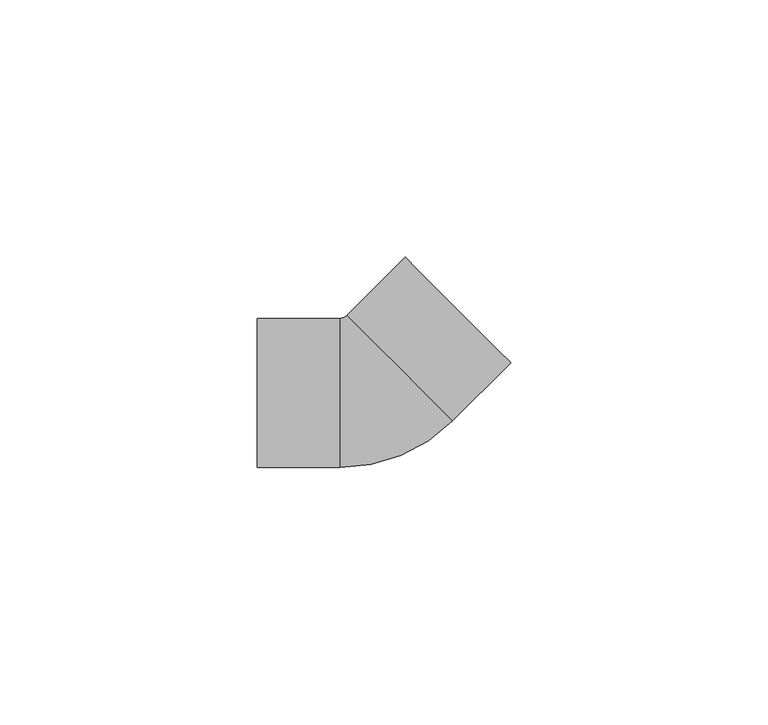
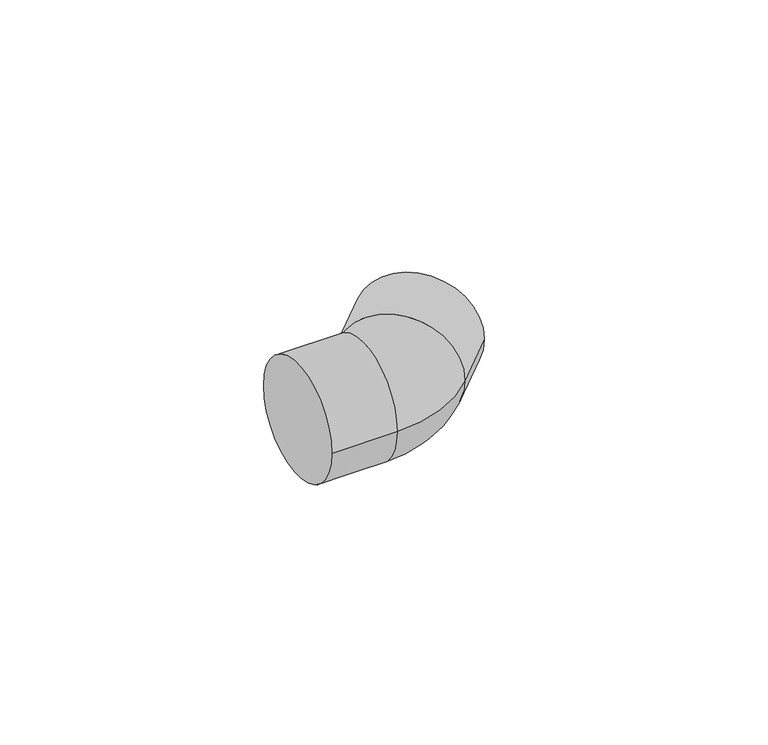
"""IFC4 building model written with IfcOpenShell, lengths in millimetres: pipe fitting geometry, NIRON RED termofusion codo : Estándar."""

from ifc_helpers import new_model, si_unit, point, frame, origin, place, context, project, spatial, circle_curve, ellipse_curve, trimmed, source, transform, mapped, element, save
from ifc_brep_helpers import plane_surface, cylinder_surface, revolved_surface, advanced_brep


def pipe_fitting_e67536eb(model_context):
    return source(origin(), model_context, "Body", "AdvancedBrep", [
        advanced_brep(
        [(-22.7998467, -14.5, 0.0), (-22.7998467, 14.5, 0.0), (-6.7998467, -14.5, 0.0), (-6.7998467, 14.5, 0.0), (-5.4448306, 15.061266, 0.0), (15.061266, -5.4448306, 0.0), (4.8082177, 4.8082177, 14.5), (4.8082177, 4.8082177, -14.5), (26.3749745, 5.8688779, 0.0), (5.8688779, 26.3749745, 0.0)],
        [
            (0, 1, circle_curve(frame((-22.7998467, 0.0, 0.0), z_axis=(-1.0, 0.0, 0.0), x_axis=(0.0, 1.0, 0.0)), 14.5)),
            (1, 0, circle_curve(frame((-22.7998467, 0.0, 0.0), z_axis=(-1.0, 0.0, 0.0), x_axis=(0.0, 1.0, 0.0)), 14.5)),
            (0, 2),
            (2, 3, circle_curve(frame((-6.7998467, 0.0, 0.0), z_axis=(-1.0, 0.0, 0.0), x_axis=(0.0, 1.0, 0.0)), 14.5)),
            (3, 1),
            (3, 2, circle_curve(frame((-6.7998467, 0.0, 0.0), z_axis=(-1.0, 0.0, 0.0), x_axis=(0.0, 1.0, 0.0)), 14.5)),
            (4, 3, circle_curve(frame((-6.7998467, 16.416282, 0.0), z_axis=(0.0, 0.0, -1.0), x_axis=(0.0, -1.0, 0.0)), 1.916282)),
            (2, 5, circle_curve(frame((-6.7998467, 16.416282, 0.0), z_axis=(0.0, 0.0, 1.0), x_axis=(0.0, -1.0, 0.0)), 30.916282)),
            (5, 6, circle_curve(frame((4.8082177, 4.8082177, 0.0), z_axis=(-0.7071067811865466, -0.7071067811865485, 0.0), x_axis=(-0.7071067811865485, 0.7071067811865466, 0.0)), 14.5)),
            (6, 4, circle_curve(frame((4.8082177, 4.8082177, 0.0), z_axis=(-0.7071067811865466, -0.7071067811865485, 0.0), x_axis=(-0.7071067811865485, 0.7071067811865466, 0.0)), 14.5)),
            (4, 7, circle_curve(frame((4.8082177, 4.8082177, 0.0), z_axis=(-0.7071067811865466, -0.7071067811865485, 0.0), x_axis=(-0.7071067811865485, 0.7071067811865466, 0.0)), 14.5)),
            (7, 5, circle_curve(frame((4.8082177, 4.8082177, 0.0), z_axis=(-0.7071067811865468, -0.7071067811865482, 0.0), x_axis=(-0.7071067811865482, 0.7071067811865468, 0.0)), 14.5)),
            (8, 9, circle_curve(frame((16.1219262, 16.1219262, 0.0), z_axis=(0.7071067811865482, 0.7071067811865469, 0.0), x_axis=(-0.7071067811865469, 0.7071067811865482, 0.0)), 14.5)),
            (9, 8, circle_curve(frame((16.1219262, 16.1219262, 0.0), z_axis=(0.7071067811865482, 0.7071067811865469, 0.0), x_axis=(-0.7071067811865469, 0.7071067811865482, 0.0)), 14.5)),
            (9, 4),
            (5, 8),
        ],
        [
            plane_surface(frame((-22.7998467, 0.0, 0.0), z_axis=(-1.0, 0.0, 0.0), x_axis=(0.0, 0.0, 1.0))),
            cylinder_surface(frame((-22.7998467, 0.0, 0.0), z_axis=(-1.0, 0.0, 0.0), x_axis=(0.0, 1.0, 0.0)), 14.5),
            revolved_surface(trimmed(ellipse_curve(frame((-6.7998467, 0.0, 0.0), z_axis=(-1.0, 0.0, 0.0), x_axis=(0.0, 1.0, 0.0)), 14.5, 14.5), [point((-6.7998467, -14.5, 0.0))], [point((-6.7998467, 14.5, 0.0))], True, "CARTESIAN"), (-6.7998467, 16.416282, 0.0), (0.0, 0.0, 1.0)),
            revolved_surface(trimmed(ellipse_curve(frame((-6.7998467, 0.0, 0.0), z_axis=(-1.0, 0.0, 0.0), x_axis=(0.0, 1.0, 0.0)), 14.5, 14.5), [point((-6.7998467, 14.5, 0.0))], [point((-6.7998467, -14.5, 0.0))], True, "CARTESIAN"), (-6.7998467, 16.416282, 0.0), (0.0, 0.0, 1.0)),
            plane_surface(frame((16.1219262, 16.1219262, 0.0), z_axis=(0.7071067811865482, 0.7071067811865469, 0.0), x_axis=(0.0, 0.0, 1.0))),
            cylinder_surface(frame((4.8082177, 4.8082177, 0.0), z_axis=(-0.7071067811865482, -0.7071067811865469, 0.0), x_axis=(-0.7071067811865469, 0.7071067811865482, 0.0)), 14.5),
        ],
        [
            (0, [[1, 2]]),
            (1, [[-1, 3, 4, 5]]),
            (1, [[-2, -5, 6, -3]]),
            (2, [[7, -4, 8, 9, 10]]),
            (3, [[-7, 11, 12, -8, -6]]),
            (4, [[13, 14]]),
            (5, [[-14, 15, -10, -9, 16]]),
            (5, [[-13, -16, -12, -11, -15]]),
        ],
    ),
    ])


if __name__ == "__main__":
    model = new_model("IFC4")
    model_context = context("Model", 3, world=origin())
    ifc_project = project(units=[si_unit("LENGTHUNIT", "METRE", prefix="MILLI")], contexts=[model_context])
    site = spatial("IfcSite", under=ifc_project)
    building = spatial("IfcBuilding", under=site)
    placement = place(None, origin())
    pipe_fitting_shape = pipe_fitting_e67536eb(model_context)
    element("IfcPipeFitting", 1, ObjectType="NIRON RED termofusion codo : Estándar", at=placement, inside=building, context=model_context, shape_type="MappedRepresentation", body=[
        mapped(pipe_fitting_shape, transform((0.0, 0.0, 0.0), x_axis=(1.0, 0.0, 0.0), y_axis=(0.0, 1.0, 0.0), z_axis=(0.0, 0.0, 1.0))),
    ])
    save(model, "model.ifc")
